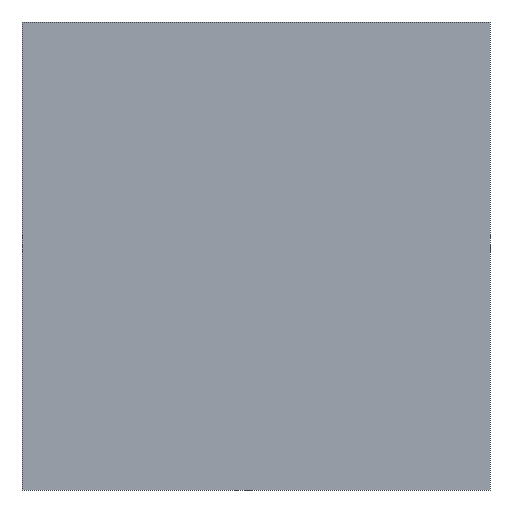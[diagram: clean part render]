
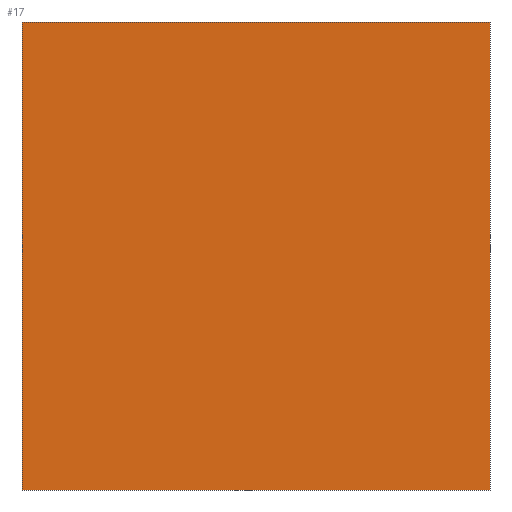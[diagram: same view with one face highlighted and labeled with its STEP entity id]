
A CAD part, left-side view. The second image highlights one B-rep face of the part: STEP entity #17.
In plain terms, the highlighted planar face has unit normal (-1, 0, 0).
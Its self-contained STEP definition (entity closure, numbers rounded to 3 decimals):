
#17 = ADVANCED_FACE('',(#18),#52,.F.);
#18 = FACE_BOUND('',#19,.F.);
#19 = EDGE_LOOP('',(#20,#30,#38,#46));
#20 = ORIENTED_EDGE('',*,*,#21,.F.);
#21 = EDGE_CURVE('',#22,#24,#26,.T.);
#22 = VERTEX_POINT('',#23);
#23 = CARTESIAN_POINT('',(-250.,-250.,0.));
#24 = VERTEX_POINT('',#25);
#25 = CARTESIAN_POINT('',(-250.,-250.,500.));
#26 = LINE('',#27,#28);
#27 = CARTESIAN_POINT('',(-250.,-250.,0.));
#28 = VECTOR('',#29,1.);
#29 = DIRECTION('',(0.,0.,1.));
#30 = ORIENTED_EDGE('',*,*,#31,.T.);
#31 = EDGE_CURVE('',#22,#32,#34,.T.);
#32 = VERTEX_POINT('',#33);
#33 = CARTESIAN_POINT('',(-250.,250.,0.));
#34 = LINE('',#35,#36);
#35 = CARTESIAN_POINT('',(-250.,-250.,0.));
#36 = VECTOR('',#37,1.);
#37 = DIRECTION('',(-0.,1.,0.));
#38 = ORIENTED_EDGE('',*,*,#39,.T.);
#39 = EDGE_CURVE('',#32,#40,#42,.T.);
#40 = VERTEX_POINT('',#41);
#41 = CARTESIAN_POINT('',(-250.,250.,500.));
#42 = LINE('',#43,#44);
#43 = CARTESIAN_POINT('',(-250.,250.,0.));
#44 = VECTOR('',#45,1.);
#45 = DIRECTION('',(0.,0.,1.));
#46 = ORIENTED_EDGE('',*,*,#47,.F.);
#47 = EDGE_CURVE('',#24,#40,#48,.T.);
#48 = LINE('',#49,#50);
#49 = CARTESIAN_POINT('',(-250.,-250.,500.));
#50 = VECTOR('',#51,1.);
#51 = DIRECTION('',(-0.,1.,0.));
#52 = PLANE('',#53);
#53 = AXIS2_PLACEMENT_3D('',#54,#55,#56);
#54 = CARTESIAN_POINT('',(-250.,-250.,0.));
#55 = DIRECTION('',(1.,0.,-0.));
#56 = DIRECTION('',(0.,0.,1.));
